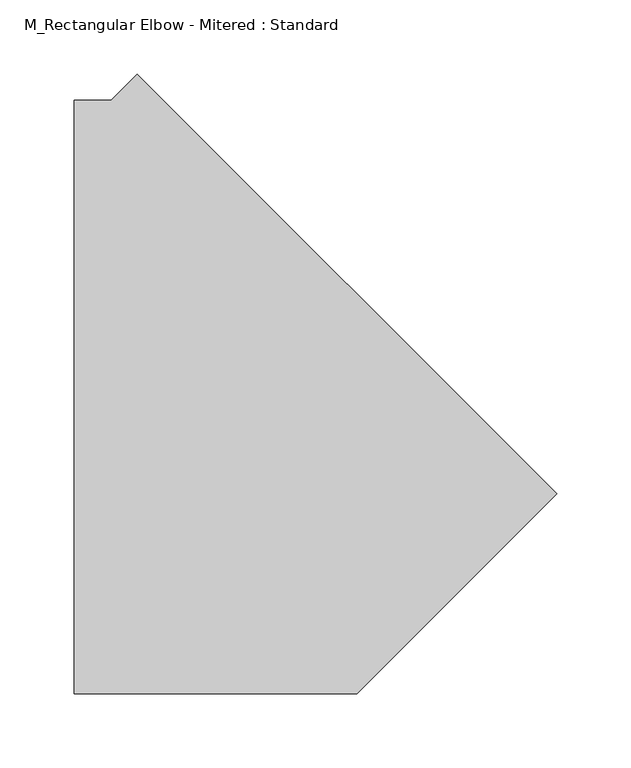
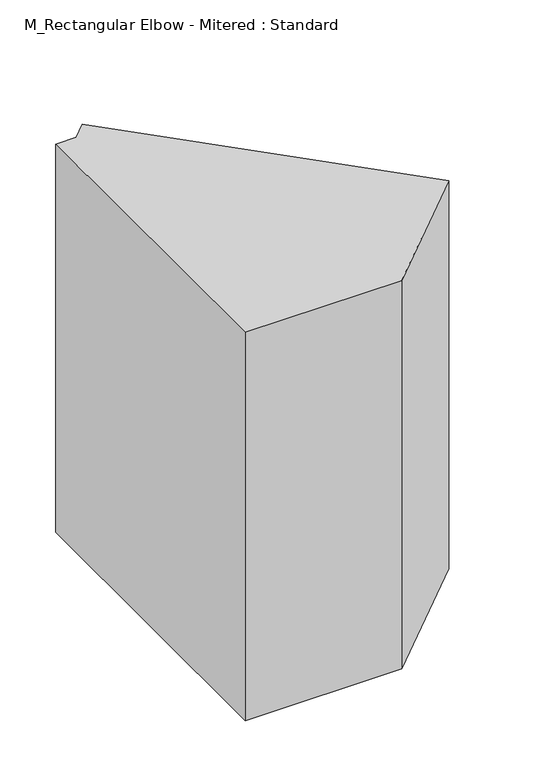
"""IFC4 building model written with IfcOpenShell, lengths in millimetres: duct fitting geometry, M_Rectangular Elbow - Mitered : Standard."""

from ifc_helpers import new_model, si_unit, frame, origin, place, context, project, spatial, polyline, outline, extrude, source, transform, mapped, element, save


def m_rectangular_elbow_mitered_standard_0587a28b(model_context):
    return source(origin(), model_context, "Body", "SweptSolid", [
        extrude(outline(polyline([(-107.8427115, -200.0), (-107.8427115, 200.0), (-82.8427115, 200.0), (-65.1650418, 217.6776694), (217.6776683, -65.1650454), (82.8427115, -200.0), (-107.8427115, -200.0)])), frame((0.0, 0.0, -250.0), z_axis=(0.0, 0.0, 1.0), x_axis=(1.0, 0.0, 0.0)), (0.0, 0.0, 1.0), 500.0),
        extrude(outline(polyline([(-107.8427115, -200.0), (-107.8427115, 200.0), (-82.8427115, 200.0), (-65.1650418, 217.6776694), (217.6776683, -65.1650454), (82.8427115, -200.0), (-107.8427115, -200.0)])), frame((0.0, 0.0, -250.0), z_axis=(0.0, 0.0, 1.0), x_axis=(1.0, 0.0, 0.0)), (0.0, 0.0, 1.0), 500.0),
        extrude(outline(polyline([(-107.8427115, -200.0), (-107.8427115, 200.0), (-82.8427115, 200.0), (-65.1650418, 217.6776694), (217.6776683, -65.1650454), (82.8427115, -200.0), (-107.8427115, -200.0)])), frame((0.0, 0.0, -250.0), z_axis=(0.0, 0.0, 1.0), x_axis=(1.0, 0.0, 0.0)), (0.0, 0.0, 1.0), 500.0),
    ])


if __name__ == "__main__":
    model = new_model("IFC4")
    model_context = context("Model", 3, world=origin())
    ifc_project = project(units=[si_unit("LENGTHUNIT", "METRE", prefix="MILLI")], contexts=[model_context])
    site = spatial("IfcSite", under=ifc_project)
    building = spatial("IfcBuilding", under=site)
    placement = place(None, origin())
    m_rectangular_elbow_mitered_standard_shape = m_rectangular_elbow_mitered_standard_0587a28b(model_context)
    element("IfcDuctFitting", 1, ObjectType="M_Rectangular Elbow - Mitered : Standard", at=placement, inside=building, context=model_context, shape_type="MappedRepresentation", body=[
        mapped(m_rectangular_elbow_mitered_standard_shape, transform((0.0, 0.0, 0.0), x_axis=(1.0, 0.0, 0.0), y_axis=(0.0, 1.0, 0.0), z_axis=(0.0, 0.0, 1.0))),
    ])
    save(model, "model.ifc")
